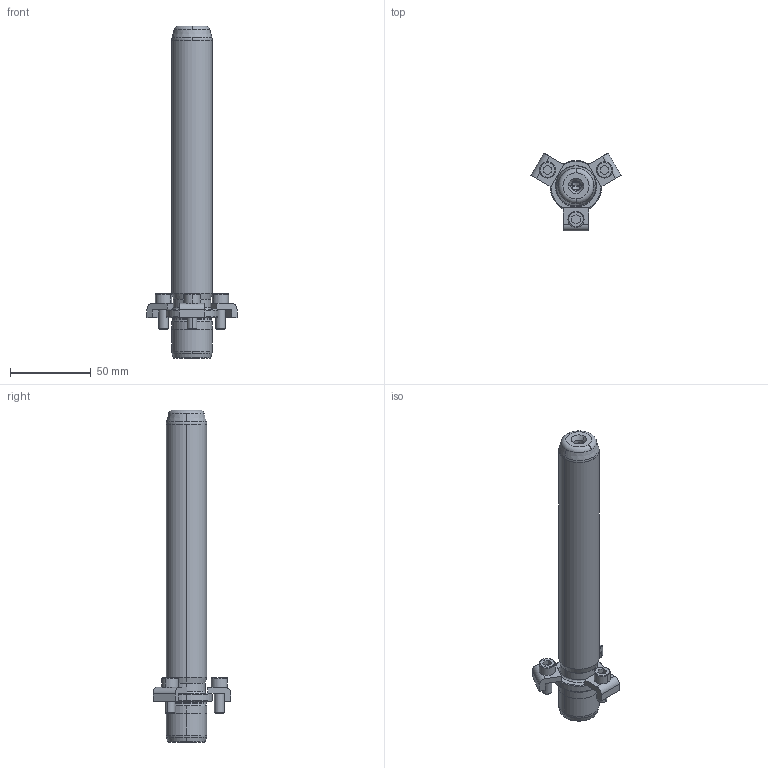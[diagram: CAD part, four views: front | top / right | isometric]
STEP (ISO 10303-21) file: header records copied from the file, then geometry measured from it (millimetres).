
FILE_DESCRIPTION((''),'2;1');
FILE_NAME('P21_025_180.stp','2008-12-23T09:51:13',(''),(''),'Mechanical Desktop 2009','Mechanical Desktop 2009',', , ');
FILE_SCHEMA(('CONFIG_CONTROL_DESIGN'));
Length unit declared in the file: millimetre
Products named in the file (2): Product; blmdl1
Assembly tree (1 placements, depth 2):
  Product
    blmdl1
Bounding box: 55.58 x 48.13 x 205 mm (x, y, z)
Volume: 105026.7 mm3; surface area: 22733.1 mm2
Topology: 7 solids, 7 shells, 163 faces, 417 edges, 269 vertices
Faces by surface type: plane 59, cylinder 44, cone 32, torus 14, bspline 14
Entity records: 5679 total; most frequent: CARTESIAN_POINT 1511, DIRECTION 914, ORIENTED_EDGE 826, EDGE_CURVE 413, AXIS2_PLACEMENT_3D 362, VERTEX_POINT 269, CIRCLE 211, VECTOR 190
